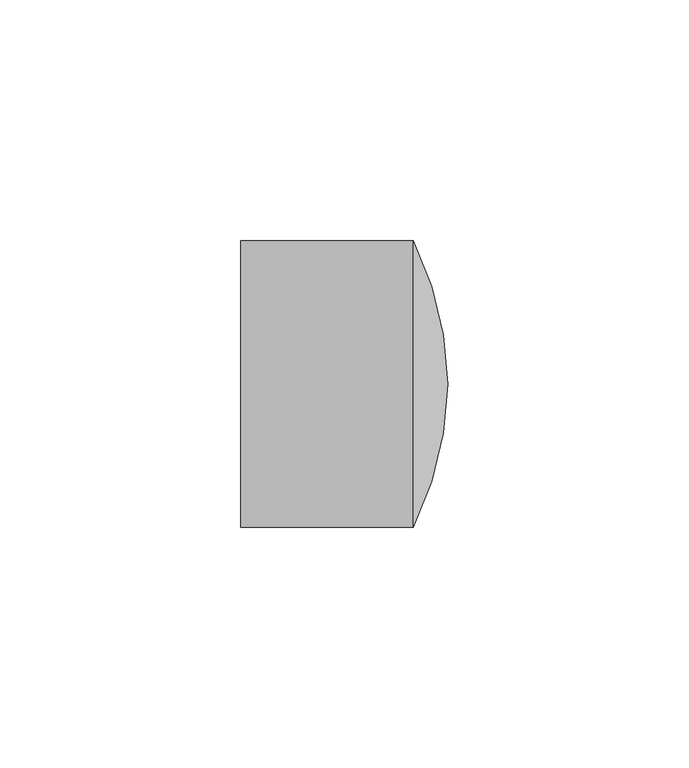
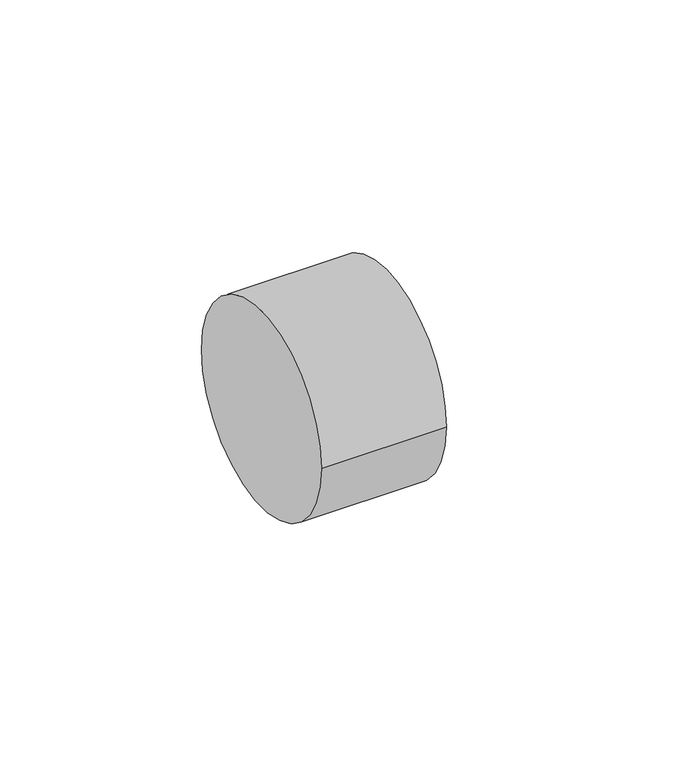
"""IFC4 building model written with IfcOpenShell, lengths in millimetres: pipe fitting geometry, 01051012 : Bouchons F."""

from ifc_helpers import new_model, si_unit, point, frame, origin, place, context, project, spatial, circle_curve, ellipse_curve, trimmed, source, transform, mapped, element, save
from ifc_brep_helpers import plane_surface, cylinder_surface, revolved_surface, advanced_brep


def pipe_fitting_cf478cc4(model_context):
    return source(origin(), model_context, "Body", "AdvancedBrep", [
        advanced_brep(
        [(35.8333333, 29.75, 0.0), (43.0, 0.0, 0.0), (35.8333333, -29.75, 0.0), (0.0, -29.75, 0.0), (0.0, 29.75, 0.0)],
        [
            (0, 1, circle_curve(frame((-27.9078184, -1.3432233, 0.0), z_axis=(0.0, 0.0, -1.0), x_axis=(1.0, 0.0, 0.0)), 70.9205397)),
            (1, 2, circle_curve(frame((-27.9078184, 1.3432233, 0.0), z_axis=(0.0, 0.0, -1.0), x_axis=(1.0, 0.0, 0.0)), 70.9205397)),
            (2, 0, circle_curve(frame((35.8333333, 0.0, 0.0), z_axis=(1.0, 0.0, 0.0), x_axis=(0.0, 1.0, 0.0)), 29.75)),
            (0, 2, circle_curve(frame((35.8333333, 0.0, 0.0), z_axis=(1.0, 0.0, 0.0), x_axis=(0.0, 1.0, 0.0)), 29.75)),
            (3, 4, circle_curve(frame((0.0, 0.0, 0.0), z_axis=(-1.0, 0.0, 0.0), x_axis=(0.0, 1.0, 0.0)), 29.75)),
            (4, 3, circle_curve(frame((0.0, 0.0, 0.0), z_axis=(-1.0, 0.0, 0.0), x_axis=(0.0, 1.0, 0.0)), 29.75)),
            (3, 2),
            (0, 4),
        ],
        [
            revolved_surface(trimmed(ellipse_curve(frame((-27.9078184, -1.3432233, 0.0), z_axis=(0.0, 0.0, 1.0), x_axis=(1.0, 0.0, 0.0)), 70.9205397, 70.9205397), [point((43.0, 0.0, 0.0))], [point((35.8333333, 29.75, 0.0))], True, "CARTESIAN"), (35.8333333, 0.0, 0.0), (-1.0, 0.0, 0.0)),
            plane_surface(frame((0.0, 0.0, 0.0), z_axis=(-1.0, 0.0, 0.0), x_axis=(0.0, 0.0, 1.0))),
            cylinder_surface(frame((0.0, 0.0, 0.0), z_axis=(-1.0, 0.0, 0.0), x_axis=(0.0, 1.0, 0.0)), 29.75),
        ],
        [
            (0, [[1, 2, 3]]),
            (0, [[-1, 4, -2]]),
            (1, [[5, 6]]),
            (2, [[-5, 7, -4, 8]]),
            (2, [[-6, -8, -3, -7]]),
        ],
    ),
    ])


if __name__ == "__main__":
    model = new_model("IFC4")
    model_context = context("Model", 3, world=origin())
    ifc_project = project(units=[si_unit("LENGTHUNIT", "METRE", prefix="MILLI")], contexts=[model_context])
    site = spatial("IfcSite", under=ifc_project)
    building = spatial("IfcBuilding", under=site)
    placement = place(None, origin())
    pipe_fitting_shape = pipe_fitting_cf478cc4(model_context)
    element("IfcPipeFitting", 1, ObjectType="01051012 : Bouchons F", at=placement, inside=building, context=model_context, shape_type="MappedRepresentation", body=[
        mapped(pipe_fitting_shape, transform((0.0, 0.0, 0.0), x_axis=(1.0, 0.0, 0.0), y_axis=(0.0, 1.0, 0.0), z_axis=(0.0, 0.0, 1.0))),
    ])
    save(model, "model.ifc")
